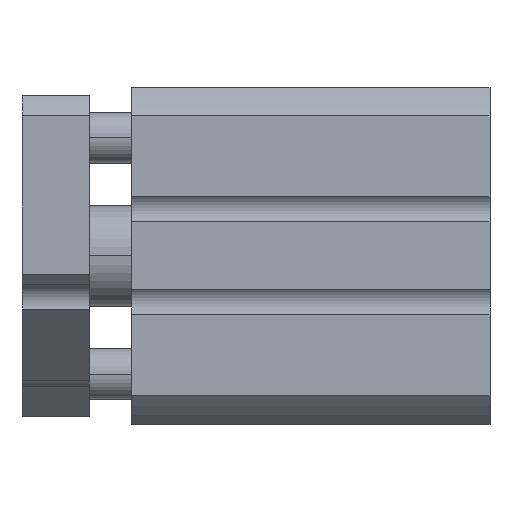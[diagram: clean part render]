
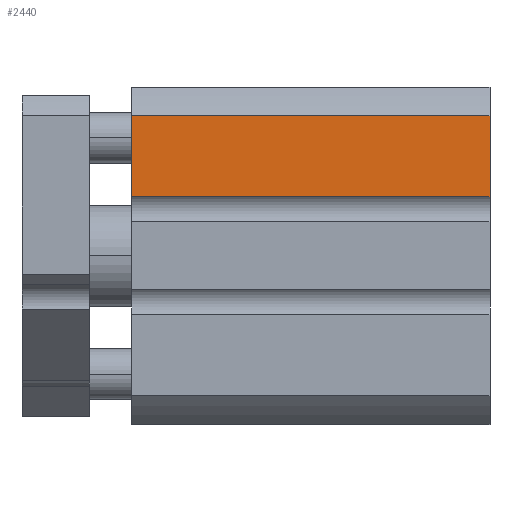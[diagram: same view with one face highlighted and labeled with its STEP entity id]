
A CAD part, top view. The second image highlights one B-rep face of the part: STEP entity #2440.
In plain terms, the highlighted planar face has unit normal (0, 0, 1).
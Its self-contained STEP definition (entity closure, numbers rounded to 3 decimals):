
#72 = LINE ( 'NONE', #738, #1062 ) ;
#93 = EDGE_CURVE ( 'NONE', #3108, #1987, #1205, .T. ) ;
#119 = CARTESIAN_POINT ( 'NONE',  ( 0., 7., 20. ) ) ;
#217 = DIRECTION ( 'NONE',  ( 0., -1., 0. ) ) ;
#254 = PLANE ( 'NONE',  #4447 ) ;
#381 = ORIENTED_EDGE ( 'NONE', *, *, #1131, .T. ) ;
#590 = VERTEX_POINT ( 'NONE', #1866 ) ;
#596 = CARTESIAN_POINT ( 'NONE',  ( 0., 16.613, 20. ) ) ;
#738 = CARTESIAN_POINT ( 'NONE',  ( 42.5, 16.613, 20. ) ) ;
#910 = DIRECTION ( 'NONE',  ( 0., 0., -1. ) ) ;
#927 = LINE ( 'NONE', #4503, #1954 ) ;
#1062 = VECTOR ( 'NONE', #2143, 1000. ) ;
#1071 = EDGE_LOOP ( 'NONE', ( #381, #1641, #4064, #4390 ) ) ;
#1131 = EDGE_CURVE ( 'NONE', #3196, #1987, #927, .T. ) ;
#1205 = LINE ( 'NONE', #1237, #2097 ) ;
#1237 = CARTESIAN_POINT ( 'NONE',  ( 42.5, 7., 20. ) ) ;
#1274 = VECTOR ( 'NONE', #2956, 1000. ) ;
#1630 = CARTESIAN_POINT ( 'NONE',  ( 42.5, 16.613, 20. ) ) ;
#1641 = ORIENTED_EDGE ( 'NONE', *, *, #93, .F. ) ;
#1765 = EDGE_CURVE ( 'NONE', #590, #3196, #4028, .T. ) ;
#1866 = CARTESIAN_POINT ( 'NONE',  ( 42.5, 16.613, 20. ) ) ;
#1921 = DIRECTION ( 'NONE',  ( -1., 0., 0. ) ) ;
#1954 = VECTOR ( 'NONE', #217, 1000. ) ;
#1987 = VERTEX_POINT ( 'NONE', #119 ) ;
#2097 = VECTOR ( 'NONE', #1921, 1000. ) ;
#2143 = DIRECTION ( 'NONE',  ( 0., -1., 0. ) ) ;
#2440 = ADVANCED_FACE ( 'NONE', ( #3382 ), #254, .F. ) ;
#2738 = CARTESIAN_POINT ( 'NONE',  ( 42.5, 16.613, 20. ) ) ;
#2956 = DIRECTION ( 'NONE',  ( -1., 0., 0. ) ) ;
#3108 = VERTEX_POINT ( 'NONE', #3284 ) ;
#3196 = VERTEX_POINT ( 'NONE', #596 ) ;
#3284 = CARTESIAN_POINT ( 'NONE',  ( 42.5, 7., 20. ) ) ;
#3382 = FACE_OUTER_BOUND ( 'NONE', #1071, .T. ) ;
#3454 = EDGE_CURVE ( 'NONE', #590, #3108, #72, .T. ) ;
#4028 = LINE ( 'NONE', #1630, #1274 ) ;
#4064 = ORIENTED_EDGE ( 'NONE', *, *, #3454, .F. ) ;
#4390 = ORIENTED_EDGE ( 'NONE', *, *, #1765, .T. ) ;
#4443 = DIRECTION ( 'NONE',  ( 0., -1., 0. ) ) ;
#4447 = AXIS2_PLACEMENT_3D ( 'NONE', #2738, #910, #4443 ) ;
#4503 = CARTESIAN_POINT ( 'NONE',  ( 0., 16.613, 20. ) ) ;
